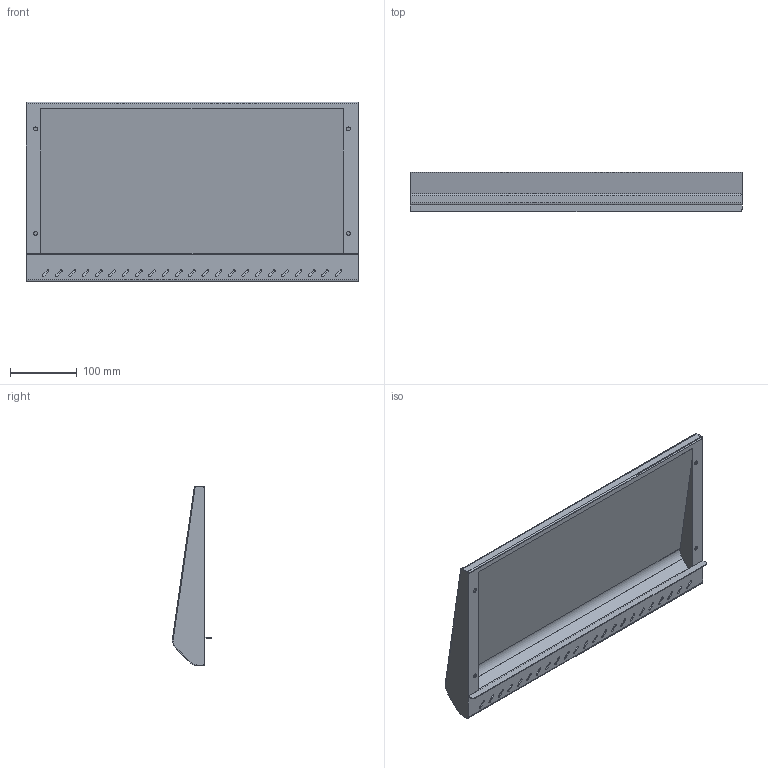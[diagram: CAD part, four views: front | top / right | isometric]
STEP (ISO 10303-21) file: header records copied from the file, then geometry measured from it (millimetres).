
FILE_DESCRIPTION (( 'STEP AP203' ), '1' );
FILE_NAME ('ECTT050025X.STEP', '2023-04-17T06:46:14', ( '' ), ( '' ), 'SwSTEP 2.0', 'SolidWorks 2022', '' );
FILE_SCHEMA (( 'CONFIG_CONTROL_DESIGN' ));
Length unit declared in the file: millimetre
Products named in the file (1): ECTT050025X
Bounding box: 499 x 58.77 x 270 mm (x, y, z)
Volume: 253149.3 mm3; surface area: 424461.5 mm2
Topology: 1 solids, 1 shells, 129 faces, 382 edges, 256 vertices
Faces by surface type: plane 67, cylinder 62
Full cylindrical faces by diameter (mm): 6 x4
Entity records: 4481 total; most frequent: DIRECTION 758, CARTESIAN_POINT 756, ORIENTED_EDGE 748, EDGE_CURVE 374, AXIS2_PLACEMENT_3D 254, VERTEX_POINT 252, VECTOR 250, LINE 250
